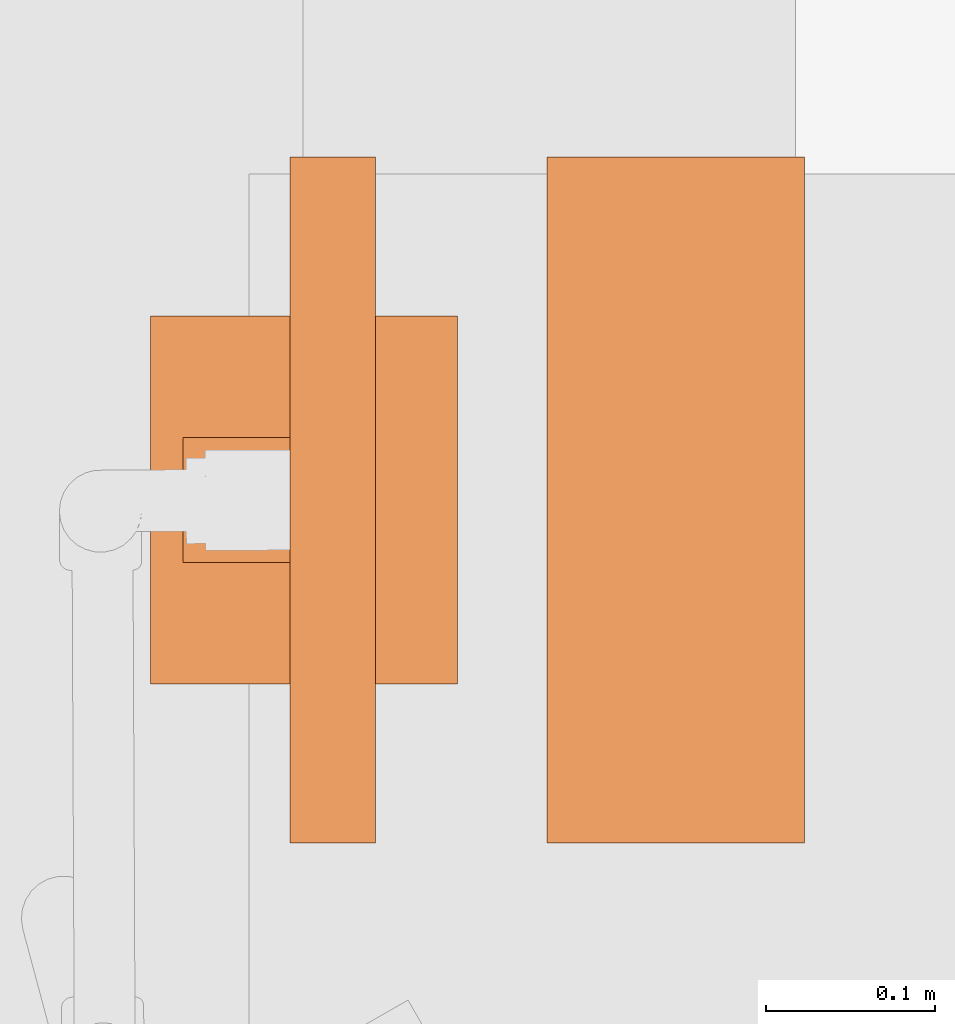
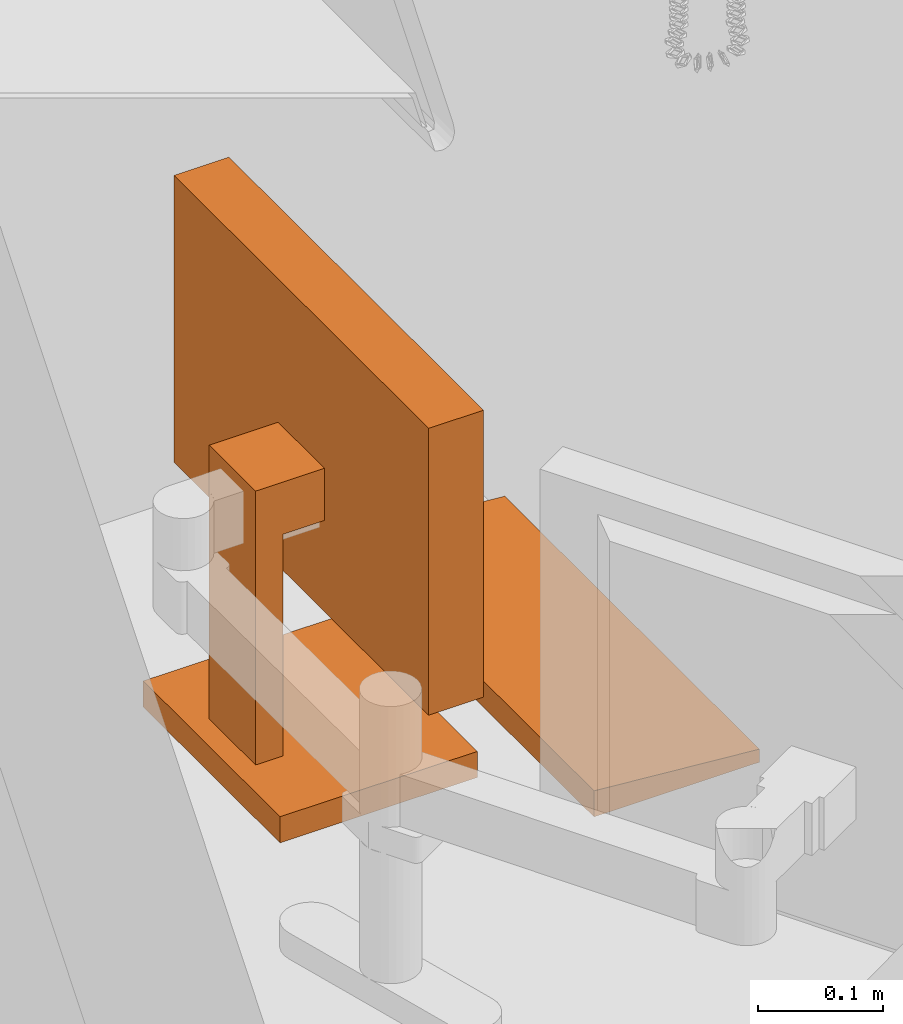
# One storey, part 11 of 12: 1 proxy.
"""IFC2X3 building model written with IfcOpenShell, lengths in feet."""

from ifc_helpers import new_model, entity, si_unit, converted_unit, derived_unit, direction, frame, origin, place, context, subcontext, project, spatial, faceted_brep, source, transform, mapped, type_object, type_shapes, element, save


model = new_model("IFC2X3")

# Units and contexts
model_context = context("Model", 3, precision=0.0001, world=origin(), true_north=direction((6.12303176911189e-17, 1.0)))
body_context = subcontext(model_context, "Body", "Model", "MODEL_VIEW")
ifc_project = project(units=[converted_unit("LENGTHUNIT", "FOOT", entity("IfcRatioMeasure", 0.3048), si_unit("LENGTHUNIT", "METRE"), dimensions=[1, 0, 0, 0, 0, 0, 0]), converted_unit("AREAUNIT", "SQUARE FOOT", entity("IfcRatioMeasure", 0.09290304), si_unit("AREAUNIT", "SQUARE_METRE"), dimensions=[2, 0, 0, 0, 0, 0, 0]), converted_unit("VOLUMEUNIT", "CUBIC FOOT", entity("IfcRatioMeasure", 0.028316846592), si_unit("VOLUMEUNIT", "CUBIC_METRE"), dimensions=[3, 0, 0, 0, 0, 0, 0]), converted_unit("PLANEANGLEUNIT", "DEGREE", entity("IfcRatioMeasure", 0.0174532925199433), si_unit("PLANEANGLEUNIT", "RADIAN"), dimensions=[0, 0, 0, 0, 0, 0, 0]), si_unit("MASSUNIT", "GRAM", prefix="KILO"), derived_unit("MASSDENSITYUNIT", [(si_unit("MASSUNIT", "GRAM", prefix="KILO"), 1), (si_unit("LENGTHUNIT", "METRE"), -3)]), si_unit("TIMEUNIT", "SECOND"), si_unit("FREQUENCYUNIT", "HERTZ"), si_unit("THERMODYNAMICTEMPERATUREUNIT", "DEGREE_CELSIUS"), derived_unit("THERMALTRANSMITTANCEUNIT", [(si_unit("MASSUNIT", "GRAM", prefix="KILO"), 1), (si_unit("THERMODYNAMICTEMPERATUREUNIT", "KELVIN"), -1), (si_unit("TIMEUNIT", "SECOND"), -3)]), derived_unit("VOLUMETRICFLOWRATEUNIT", [(si_unit("LENGTHUNIT", "METRE"), 3), (si_unit("TIMEUNIT", "SECOND"), -1)]), si_unit("ELECTRICCURRENTUNIT", "AMPERE"), si_unit("ELECTRICVOLTAGEUNIT", "VOLT"), si_unit("POWERUNIT", "WATT"), si_unit("FORCEUNIT", "NEWTON"), si_unit("ILLUMINANCEUNIT", "LUX"), si_unit("LUMINOUSFLUXUNIT", "LUMEN"), si_unit("LUMINOUSINTENSITYUNIT", "CANDELA"), derived_unit("USERDEFINED", [(si_unit("MASSUNIT", "GRAM", prefix="KILO"), -1), (si_unit("LENGTHUNIT", "METRE"), -2), (si_unit("TIMEUNIT", "SECOND"), 3), (si_unit("LUMINOUSFLUXUNIT", "LUMEN"), 1)]), derived_unit("LINEARVELOCITYUNIT", [(si_unit("LENGTHUNIT", "METRE"), 1), (si_unit("TIMEUNIT", "SECOND"), -1)]), si_unit("PRESSUREUNIT", "PASCAL"), derived_unit("USERDEFINED", [(si_unit("LENGTHUNIT", "METRE"), -2), (si_unit("MASSUNIT", "GRAM", prefix="KILO"), 1), (si_unit("TIMEUNIT", "SECOND"), -2)])], contexts=[model_context])

# Site, building, storey, space
site_placement = place(None, origin())
site = spatial("IfcSite", under=ifc_project, at=site_placement, Name="Default", CompositionType="ELEMENT")
building_placement = place(site_placement, origin())
building = spatial("IfcBuilding", under=site, at=building_placement, Name="EYE CLINIC:  OPTHALMOLOGY AND OPTOMETRY SERVICES (Ch. 233)", CompositionType="ELEMENT")
storey_placement = place(building_placement, origin())
storey = spatial("IfcBuildingStorey", under=building, at=storey_placement, Name="DATUM", CompositionType="ELEMENT", Elevation=0.0)
space_placement = place(storey_placement, origin())
space = spatial("IfcSpace", under=storey, at=space_placement, Name="(OPPT2)", CompositionType="ELEMENT", InteriorOrExteriorSpace="INTERNAL")

# Proxy
building_element_proxy_type = type_object("IfcBuildingElementProxyType", Name="M1801 Computer", PredefinedType="NOTDEFINED")
shared_shape = source(origin(), body_context, "Body", "Brep", [
    faceted_brep([(0.666666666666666, -0.437223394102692, 1.41666666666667), (0.666666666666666, -0.271109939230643, 1.41666666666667), (-0.666666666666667, -0.271109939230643, 1.41666666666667), (-0.666666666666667, -0.437223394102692, 1.41666666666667), (0.666666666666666, -0.437223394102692, 0.500000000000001), (-0.666666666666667, -0.437223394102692, 0.500000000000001), (-0.666666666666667, -0.271109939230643, 0.500000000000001), (0.666666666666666, -0.271109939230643, 0.500000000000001), (-0.625, -0.271109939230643, 1.375), (-0.625, -0.271109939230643, 0.541666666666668), (0.625, -0.271109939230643, 0.541666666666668), (0.625, -0.271109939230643, 1.375), (0.625, -0.286812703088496, 1.375), (-0.625, -0.286812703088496, 1.375), (0.625, -0.286812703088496, 0.541666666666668), (-0.625, -0.286812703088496, 0.541666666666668)], [[[0, 1, 2, 3]], [[4, 5, 6, 7]], [[3, 5, 4, 0]], [[2, 6, 5, 3]], [[8, 9, 10, 11], [1, 7, 6, 2]], [[0, 4, 7, 1]], [[12, 13, 8, 11]], [[14, 10, 9, 15]], [[12, 14, 15, 13]], [[13, 15, 9, 8]], [[11, 10, 14, 12]]], outer=[[True], [True], [True], [True], [False, True], [True], [True], [True], [True], [True], [True]]),
    faceted_brep([(0.358011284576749, -0.111770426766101, 0.0833333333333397), (0.358011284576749, -0.708333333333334, 0.0833333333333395), (0.358011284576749, -0.708333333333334, 0.0), (0.358011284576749, -0.111770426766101, 0.0), (-0.358011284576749, -0.708333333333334, 0.0833333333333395), (-0.358011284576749, -0.111770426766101, 0.0833333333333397), (-0.358011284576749, -0.111770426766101, 0.0), (-0.358011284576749, -0.708333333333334, 0.0), (0.12128795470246, -0.645556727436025, 0.104166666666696), (-0.12128795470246, -0.645556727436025, 0.104166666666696), (-0.12128795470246, -0.645556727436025, 0.0833333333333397), (0.12128795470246, -0.645556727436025, 0.0833333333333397), (0.12128795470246, -0.645556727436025, 0.958333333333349), (-0.12128795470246, -0.645556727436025, 0.958333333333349), (0.12128795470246, -0.437223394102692, 0.958333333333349), (-0.12128795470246, -0.437223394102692, 0.958333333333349), (0.12128795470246, -0.437223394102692, 0.791666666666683), (-0.12128795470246, -0.437223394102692, 0.791666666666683), (0.12128795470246, -0.562223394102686, 0.791666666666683), (-0.12128795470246, -0.562223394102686, 0.791666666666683), (0.12128795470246, -0.562223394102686, 0.0833333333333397), (-0.12128795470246, -0.562223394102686, 0.0833333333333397)], [[[0, 1, 2, 3]], [[4, 5, 6, 7]], [[8, 9, 10, 11]], [[12, 13, 9, 8]], [[14, 15, 13, 12]], [[16, 17, 15, 14]], [[18, 19, 17, 16]], [[20, 21, 19, 18]], [[11, 10, 21, 20], [0, 5, 4, 1]], [[3, 6, 5, 0]], [[2, 7, 6, 3]], [[1, 4, 7, 2]], [[20, 18, 16, 14, 12, 8, 11]], [[10, 9, 13, 15, 17, 19, 21]]], outer=[[True], [True], [True], [True], [True], [True], [True], [True], [False, True], [True], [True], [True], [True], [True]]),
    faceted_brep([(0.666666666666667, 0.5625, 0.0), (0.666666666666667, 0.5625, 0.0416666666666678), (0.666666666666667, 0.0624999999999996, 0.0833333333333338), (0.666666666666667, 0.0624999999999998, 0.0), (-0.666666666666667, 0.5625, 0.0), (-0.666666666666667, 0.0624999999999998, 0.0), (-0.666666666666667, 0.0624999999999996, 0.0833333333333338), (-0.666666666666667, 0.5625, 0.0416666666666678)], [[[0, 1, 2, 3]], [[4, 5, 6, 7]], [[3, 5, 4, 0]], [[2, 6, 5, 3]], [[1, 7, 6, 2]], [[0, 4, 7, 1]]]),
])
type_shapes(building_element_proxy_type, [shared_shape])
proxy_placement = place(space_placement, frame((155.15656756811, 33.6735402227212, 2.66666666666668), z_axis=(0.0, 0.0, 1.0), x_axis=(0.0, -1.0, 0.0)))
element("IfcBuildingElementProxy", 1, at=proxy_placement, inside=space, type_object=building_element_proxy_type, Name="M1801 - Computer, Microprocessing, With Flat Panel Monitor:M1801 Computer", ObjectType="M1801 Computer", context=body_context, shape_type="MappedRepresentation", body=[
    mapped(shared_shape, transform((0.0, 0.0, 0.0), scale=1.0)),
])

save(model, "model.ifc")
